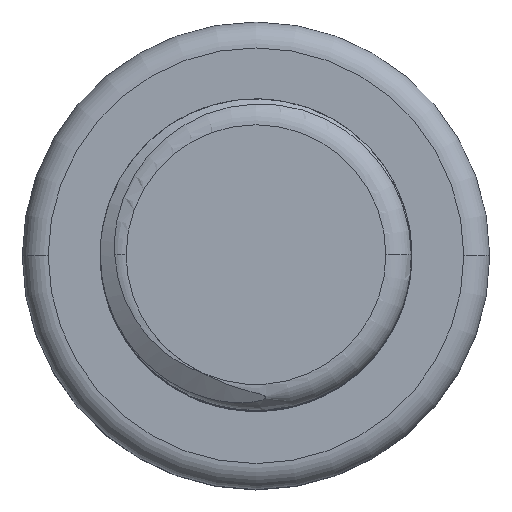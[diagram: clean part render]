
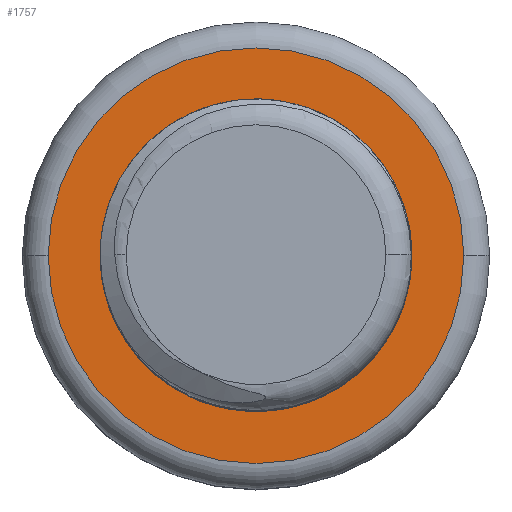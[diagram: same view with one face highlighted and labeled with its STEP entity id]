
A CAD part, top view. The second image highlights one B-rep face of the part: STEP entity #1757.
In plain terms, the highlighted planar face has unit normal (0, 0, 1).
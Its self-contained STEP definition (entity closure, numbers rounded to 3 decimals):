
#39 = ORIENTED_EDGE ( 'NONE', *, *, #2598, .T. ) ;
#70 = AXIS2_PLACEMENT_3D ( 'NONE', #688, #403, #115 ) ;
#115 = DIRECTION ( 'NONE',  ( 1., 0., 0. ) ) ;
#134 = DIRECTION ( 'NONE',  ( 0., 0., 1. ) ) ;
#283 = CARTESIAN_POINT ( 'NONE',  ( -4., 0., 6. ) ) ;
#403 = DIRECTION ( 'NONE',  ( 0., 0., 1. ) ) ;
#408 = EDGE_LOOP ( 'NONE', ( #1227, #1244 ) ) ;
#421 = CARTESIAN_POINT ( 'NONE',  ( 0., 0., 6. ) ) ;
#432 = EDGE_CURVE ( 'NONE', #648, #567, #893, .T. ) ;
#567 = VERTEX_POINT ( 'NONE', #2682 ) ;
#648 = VERTEX_POINT ( 'NONE', #2283 ) ;
#688 = CARTESIAN_POINT ( 'NONE',  ( 0., 0., 6. ) ) ;
#893 = CIRCLE ( 'NONE', #1012, 3. ) ;
#953 = DIRECTION ( 'NONE',  ( 1., 0., 0. ) ) ;
#1012 = AXIS2_PLACEMENT_3D ( 'NONE', #421, #134, #2626 ) ;
#1054 = PLANE ( 'NONE',  #1652 ) ;
#1072 = FACE_OUTER_BOUND ( 'NONE', #2690, .T. ) ;
#1152 = FACE_BOUND ( 'NONE', #408, .T. ) ;
#1227 = ORIENTED_EDGE ( 'NONE', *, *, #432, .F. ) ;
#1234 = DIRECTION ( 'NONE',  ( 0., 0., 1. ) ) ;
#1244 = ORIENTED_EDGE ( 'NONE', *, *, #1280, .F. ) ;
#1262 = CIRCLE ( 'NONE', #70, 4. ) ;
#1280 = EDGE_CURVE ( 'NONE', #567, #648, #1471, .T. ) ;
#1283 = ORIENTED_EDGE ( 'NONE', *, *, #1669, .T. ) ;
#1471 = CIRCLE ( 'NONE', #2535, 3. ) ;
#1528 = CARTESIAN_POINT ( 'NONE',  ( 0., 0., 6. ) ) ;
#1583 = CARTESIAN_POINT ( 'NONE',  ( 4., 0., 6. ) ) ;
#1588 = AXIS2_PLACEMENT_3D ( 'NONE', #2542, #2272, #1995 ) ;
#1652 = AXIS2_PLACEMENT_3D ( 'NONE', #2411, #2139, #1849 ) ;
#1669 = EDGE_CURVE ( 'NONE', #1919, #1869, #1262, .T. ) ;
#1757 = ADVANCED_FACE ( 'NONE', ( #1072, #1152 ), #1054, .T. ) ;
#1849 = DIRECTION ( 'NONE',  ( 1., 0., 0. ) ) ;
#1869 = VERTEX_POINT ( 'NONE', #283 ) ;
#1919 = VERTEX_POINT ( 'NONE', #1583 ) ;
#1995 = DIRECTION ( 'NONE',  ( 1., 0., 0. ) ) ;
#2038 = CIRCLE ( 'NONE', #1588, 4. ) ;
#2139 = DIRECTION ( 'NONE',  ( 0., 0., 1. ) ) ;
#2272 = DIRECTION ( 'NONE',  ( 0., 0., 1. ) ) ;
#2283 = CARTESIAN_POINT ( 'NONE',  ( -3., 0., 6. ) ) ;
#2411 = CARTESIAN_POINT ( 'NONE',  ( 0., 0., 6. ) ) ;
#2535 = AXIS2_PLACEMENT_3D ( 'NONE', #1528, #1234, #953 ) ;
#2542 = CARTESIAN_POINT ( 'NONE',  ( 0., 0., 6. ) ) ;
#2598 = EDGE_CURVE ( 'NONE', #1869, #1919, #2038, .T. ) ;
#2626 = DIRECTION ( 'NONE',  ( 1., 0., 0. ) ) ;
#2682 = CARTESIAN_POINT ( 'NONE',  ( 3., 0., 6. ) ) ;
#2690 = EDGE_LOOP ( 'NONE', ( #1283, #39 ) ) ;
